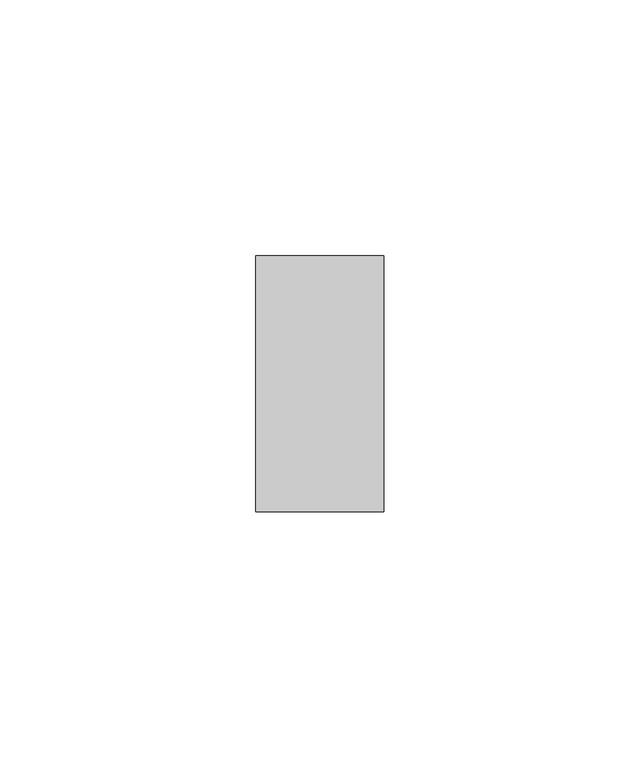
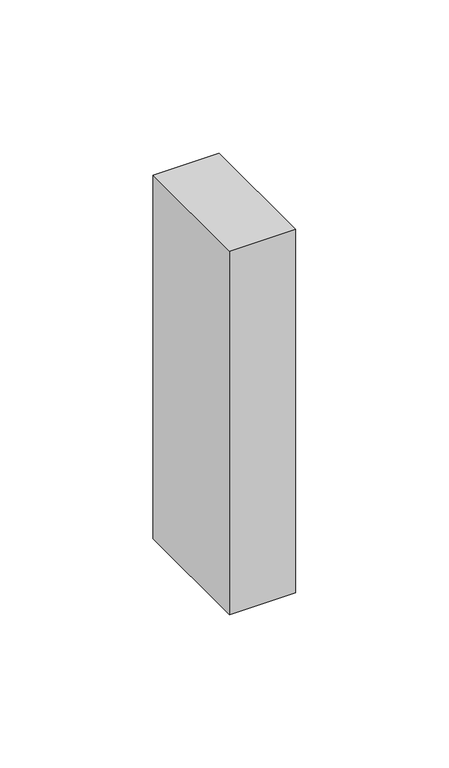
"""IFC4 building model written with IfcOpenShell, lengths in millimetres: duct fitting geometry, КНС_ЗаглушкаТорцевая_DKC : Заглушка торцевая."""

from ifc_helpers import new_model, si_unit, frame, origin, place, context, project, spatial, polyline, outline, extrude, source, transform, mapped, element, save


def duct_fitting_31b2739c(model_context):
    return source(origin(), model_context, "Body", "SweptSolid", [
        extrude(outline(polyline([(35.1665888, 9.9242756), (35.1665888, -40.0757244), (10.1665888, -40.0757244), (10.1665888, 9.9242756), (35.1665888, 9.9242756)])), frame((0.0, 0.0, -72.5), z_axis=(0.0, 0.0, 1.0), x_axis=(1.0, 0.0, 0.0)), (0.0, 0.0, 1.0), 145.0),
    ])


if __name__ == "__main__":
    model = new_model("IFC4")
    model_context = context("Model", 3, world=origin())
    ifc_project = project(units=[si_unit("LENGTHUNIT", "METRE", prefix="MILLI")], contexts=[model_context])
    site = spatial("IfcSite", under=ifc_project)
    building = spatial("IfcBuilding", under=site)
    placement = place(None, origin())
    duct_fitting_shape = duct_fitting_31b2739c(model_context)
    element("IfcDuctFitting", 1, ObjectType="КНС_ЗаглушкаТорцевая_DKC : Заглушка торцевая", at=placement, inside=building, context=model_context, shape_type="MappedRepresentation", body=[
        mapped(duct_fitting_shape, transform((0.0, 0.0, 0.0), x_axis=(1.0, 0.0, 0.0), y_axis=(0.0, 1.0, 0.0), z_axis=(0.0, 0.0, 1.0))),
    ])
    save(model, "model.ifc")
